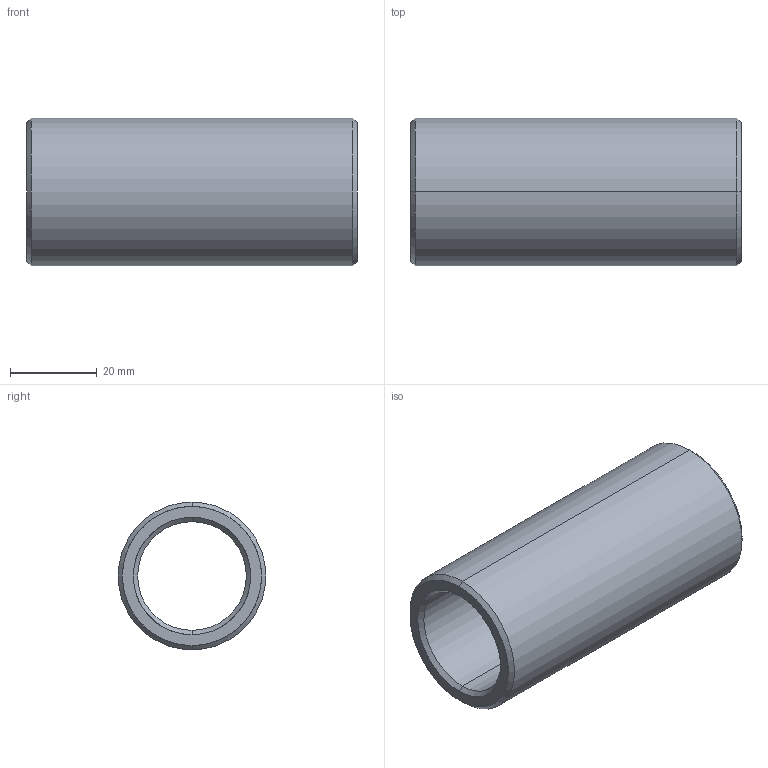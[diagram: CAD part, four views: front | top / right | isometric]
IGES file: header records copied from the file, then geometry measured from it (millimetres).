
Start section: START RECORD GO HERE.
Global section: file name: 352-25X76.igs; native system: DASSAULT SYSTEMES CATIA V5 R20 - www.3ds.com; preprocessor: CATIA Version 5 Release 20 ; author: Utente; organization: NB04-ASUS; date: 20210414.172711; units: millimetre
Bounding box: 76 x 34 x 34 mm (x, y, z)
Surface area: 14715.3 mm2 (no closed solid volume)
Topology: 0 solids, 0 shells, 14 faces, 88 edges, 88 vertices
Faces by surface type: revolution 12, plane 2
